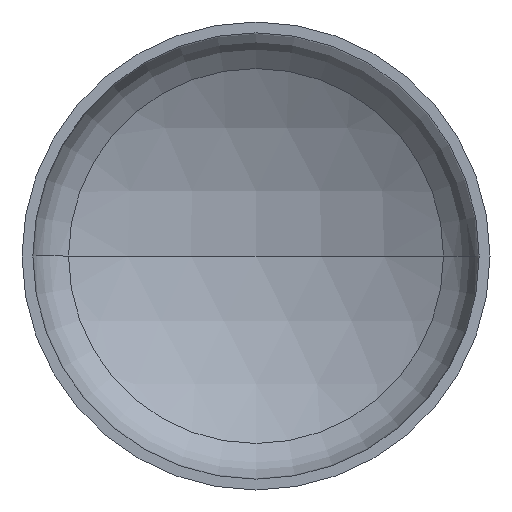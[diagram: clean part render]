
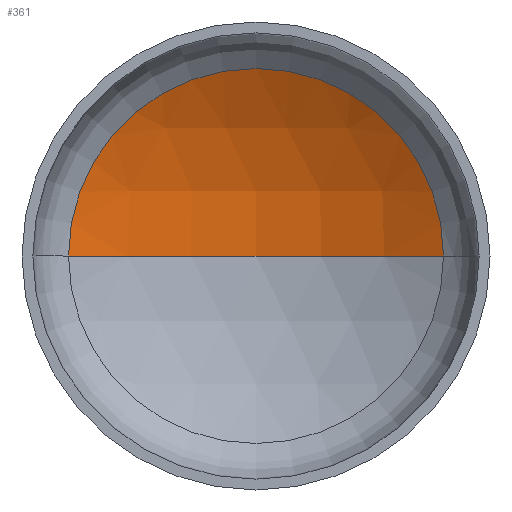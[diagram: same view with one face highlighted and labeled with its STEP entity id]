
A CAD part, front view. The second image highlights one B-rep face of the part: STEP entity #361.
In plain terms, the highlighted spherical face has radius 1520 mm.
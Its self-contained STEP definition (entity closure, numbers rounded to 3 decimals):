
#1 = AXIS2_PLACEMENT_3D ( 'NONE', #259, #80, #340 ) ;
#2 = AXIS2_PLACEMENT_3D ( 'NONE', #123, #100, #133 ) ;
#6 = AXIS2_PLACEMENT_3D ( 'NONE', #360, #399, #181 ) ;
#28 = ORIENTED_EDGE ( 'NONE', *, *, #347, .T. ) ;
#29 = EDGE_LOOP ( 'NONE', ( #64, #28, #43 ) ) ;
#43 = ORIENTED_EDGE ( 'NONE', *, *, #374, .T. ) ;
#51 = DIRECTION ( 'NONE',  ( 0., 0., -1. ) ) ;
#56 = VERTEX_POINT ( 'NONE', #285 ) ;
#64 = ORIENTED_EDGE ( 'NONE', *, *, #357, .F. ) ;
#80 = DIRECTION ( 'NONE',  ( 0., -1., 0. ) ) ;
#97 = CARTESIAN_POINT ( 'NONE',  ( 0., -924.633, 0. ) ) ;
#100 = DIRECTION ( 'NONE',  ( 0., 0., 1. ) ) ;
#116 = VERTEX_POINT ( 'NONE', #204 ) ;
#123 = CARTESIAN_POINT ( 'NONE',  ( 0., -924.633, 0. ) ) ;
#124 = AXIS2_PLACEMENT_3D ( 'NONE', #97, #51, #405 ) ;
#133 = DIRECTION ( 'NONE',  ( 1., 0., 0. ) ) ;
#150 = VERTEX_POINT ( 'NONE', #199 ) ;
#160 = CIRCLE ( 'NONE', #1, 761.236 ) ;
#181 = DIRECTION ( 'NONE',  ( -1., 0., 0. ) ) ;
#199 = CARTESIAN_POINT ( 'NONE',  ( -761.236, 391.011, 0. ) ) ;
#204 = CARTESIAN_POINT ( 'NONE',  ( 761.236, 391.011, 0. ) ) ;
#224 = CIRCLE ( 'NONE', #6, 1520. ) ;
#259 = CARTESIAN_POINT ( 'NONE',  ( 0., 391.011, 0. ) ) ;
#285 = CARTESIAN_POINT ( 'NONE',  ( 0., 595.367, 0. ) ) ;
#340 = DIRECTION ( 'NONE',  ( 1., 0., 0. ) ) ;
#347 = EDGE_CURVE ( 'NONE', #56, #116, #224, .T. ) ;
#353 = FACE_OUTER_BOUND ( 'NONE', #29, .T. ) ;
#357 = EDGE_CURVE ( 'NONE', #56, #150, #364, .T. ) ;
#360 = CARTESIAN_POINT ( 'NONE',  ( 0., -924.633, 0. ) ) ;
#361 = ADVANCED_FACE ( 'NONE', ( #353 ), #410, .F. ) ;
#364 = CIRCLE ( 'NONE', #2, 1520. ) ;
#374 = EDGE_CURVE ( 'NONE', #116, #150, #160, .T. ) ;
#399 = DIRECTION ( 'NONE',  ( 0., 0., -1. ) ) ;
#405 = DIRECTION ( 'NONE',  ( -1., 0., 0. ) ) ;
#410 = SPHERICAL_SURFACE ( 'NONE', #124, 1520. ) ;
